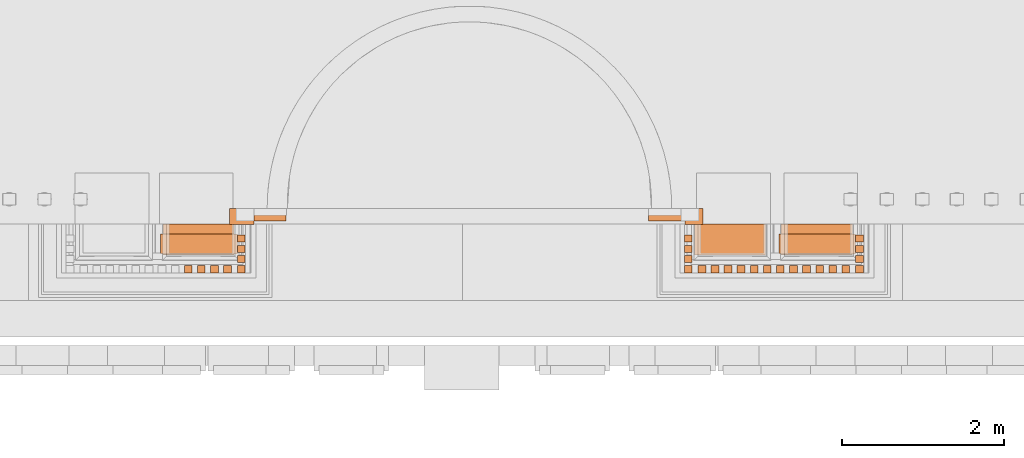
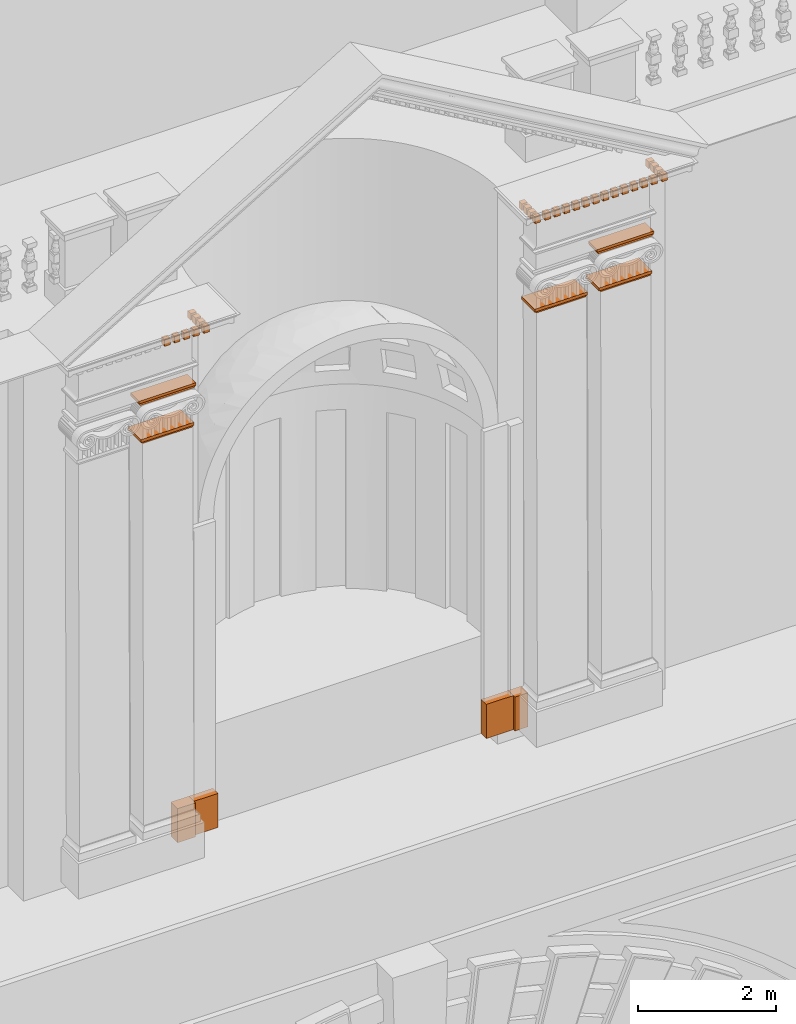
# One storey, part 16 of 44: 42 proxies.
"""IFC2X3 building model written with IfcOpenShell, lengths in metres."""

from ifc_helpers import new_model, entity, si_unit, converted_unit, derived_unit, direction, frame, frame_2d, origin, place, context, subcontext, project, spatial, polyline, circle_curve, parameter, trimmed, segment, composite_curve, rectangle, outline, extrude, material, element, save


model = new_model("IFC2X3")

# Units and contexts
model_context = context("Model", 3, precision=1e-05, world=origin(), true_north=direction((6.12303176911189e-17, 1.0)))
body_context = subcontext(model_context, "Body", "Model", "MODEL_VIEW")
ifc_project = project(units=[si_unit("LENGTHUNIT", "METRE"), si_unit("AREAUNIT", "SQUARE_METRE"), si_unit("VOLUMEUNIT", "CUBIC_METRE"), converted_unit("PLANEANGLEUNIT", "DEGREE", entity("IfcRatioMeasure", 0.0174532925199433), si_unit("PLANEANGLEUNIT", "RADIAN"), dimensions=[0, 0, 0, 0, 0, 0, 0]), si_unit("MASSUNIT", "GRAM", prefix="KILO"), derived_unit("MASSDENSITYUNIT", [(si_unit("MASSUNIT", "GRAM", prefix="KILO"), 1), (si_unit("LENGTHUNIT", "METRE"), -3)]), si_unit("TIMEUNIT", "SECOND"), si_unit("FREQUENCYUNIT", "HERTZ"), si_unit("THERMODYNAMICTEMPERATUREUNIT", "DEGREE_CELSIUS"), derived_unit("THERMALTRANSMITTANCEUNIT", [(si_unit("MASSUNIT", "GRAM", prefix="KILO"), 1), (si_unit("THERMODYNAMICTEMPERATUREUNIT", "KELVIN"), -1), (si_unit("TIMEUNIT", "SECOND"), -3)]), derived_unit("VOLUMETRICFLOWRATEUNIT", [(si_unit("LENGTHUNIT", "METRE"), 3), (si_unit("TIMEUNIT", "SECOND"), -1)]), si_unit("ELECTRICCURRENTUNIT", "AMPERE"), si_unit("ELECTRICVOLTAGEUNIT", "VOLT"), si_unit("POWERUNIT", "WATT"), si_unit("FORCEUNIT", "NEWTON", prefix="KILO"), si_unit("ILLUMINANCEUNIT", "LUX"), si_unit("LUMINOUSFLUXUNIT", "LUMEN"), si_unit("LUMINOUSINTENSITYUNIT", "CANDELA"), derived_unit("USERDEFINED", [(si_unit("MASSUNIT", "GRAM", prefix="KILO"), -1), (si_unit("LENGTHUNIT", "METRE"), -2), (si_unit("TIMEUNIT", "SECOND"), 3), (si_unit("LUMINOUSFLUXUNIT", "LUMEN"), 1)]), derived_unit("LINEARVELOCITYUNIT", [(si_unit("LENGTHUNIT", "METRE"), 1), (si_unit("TIMEUNIT", "SECOND"), -1)]), si_unit("PRESSUREUNIT", "PASCAL"), derived_unit("USERDEFINED", [(si_unit("LENGTHUNIT", "METRE"), -2), (si_unit("MASSUNIT", "GRAM", prefix="KILO"), 1), (si_unit("TIMEUNIT", "SECOND"), -2)])], contexts=[model_context])

# Site, building, storey
site_placement = place(None, origin())
site = spatial("IfcSite", under=ifc_project, at=site_placement, Name="Default", CompositionType="ELEMENT")
building_placement = place(site_placement, origin())
building = spatial("IfcBuilding", under=site, at=building_placement, CompositionType="ELEMENT")
storey_placement = place(building_placement, origin())
storey = spatial("IfcBuildingStorey", under=building, at=storey_placement, Name="Livello 1", CompositionType="ELEMENT", Elevation=0.0)

# Proxies
ifc_material_1 = material(Name="Travertino")
proxy_1_placement = place(storey_placement, frame((-2.65529902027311, 1.30166814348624, 13.3635840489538)))
element("IfcBuildingElementProxy", 1, at=proxy_1_placement, inside=storey, material=ifc_material_1, Name="Stratigrafia", context=body_context, shape_type="SweptSolid", body=[
    extrude(rectangle(XDim=0.600646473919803, YDim=0.151704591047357, at=frame_2d((0.0, 0.0), x_axis=(0.0, 1.0))), frame((0.0, 0.0758522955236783, 0.300323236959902), z_axis=(1.0, 0.0, 0.0), x_axis=(0.0, 1.0, 0.0)), (0.0, 0.0, 1.0), 0.400959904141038),
])
proxy_2_placement = place(storey_placement, frame((-2.95433911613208, 1.25736014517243, 13.3635840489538)))
element("IfcBuildingElementProxy", 2, at=proxy_2_placement, inside=storey, material=ifc_material_1, Name="Stratigrafia", context=body_context, shape_type="SweptSolid", body=[
    extrude(rectangle(XDim=0.600646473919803, YDim=0.196012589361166, at=frame_2d((0.0, 0.0), x_axis=(0.0, 1.0))), frame((0.0, 0.0980062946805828, 0.300323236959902), z_axis=(1.0, 0.0, 0.0), x_axis=(0.0, 1.0, 0.0)), (0.0, 0.0, 1.0), 0.299040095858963),
])
proxy_3_placement = place(storey_placement, frame((2.22478874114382, 1.30166814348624, 13.3635840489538)))
element("IfcBuildingElementProxy", 3, at=proxy_3_placement, inside=storey, material=ifc_material_1, Name="Stratigrafia", context=body_context, shape_type="SweptSolid", body=[
    extrude(rectangle(XDim=0.600646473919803, YDim=0.151704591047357, at=frame_2d((0.0, 0.0), x_axis=(0.0, 1.0))), frame((0.0, 0.0758522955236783, 0.300323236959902), z_axis=(1.0, 0.0, 0.0), x_axis=(0.0, 1.0, 0.0)), (0.0, 0.0, 1.0), 0.450122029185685),
])
proxy_4_placement = place(storey_placement, frame((2.67491077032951, 1.25736014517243, 13.3635840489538)))
element("IfcBuildingElementProxy", 4, at=proxy_4_placement, inside=storey, material=ifc_material_1, Name="Stratigrafia", context=body_context, shape_type="SweptSolid", body=[
    extrude(rectangle(XDim=0.600646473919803, YDim=0.196012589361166, at=frame_2d((0.0, 0.0), x_axis=(0.0, 1.0))), frame((0.0, 0.0980062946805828, 0.300323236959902), z_axis=(1.0, 0.0, 0.0), x_axis=(0.0, 1.0, 0.0)), (0.0, 0.0, 1.0), 0.219371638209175),
])
proxy_5_placement = place(storey_placement, frame((3.86017082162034, 0.883372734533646, 20.9111265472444)))
element("IfcBuildingElementProxy", 5, at=proxy_5_placement, inside=storey, Name="Stratigrafia", context=body_context, shape_type="SweptSolid", body=[
    extrude(outline(composite_curve([segment(polyline([(-0.123759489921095, 0.395360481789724), (0.101421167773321, -0.401671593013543)]), True, "CONTINUOUS"), segment(trimmed(circle_curve(frame_2d((0.0968904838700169, -0.441245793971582), x_axis=(0.85216090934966, 0.523279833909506)), 0.0398327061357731), [parameter(1.99993278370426e-11)], [parameter(51.9163679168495)], True, "PARAMETER"), False, "CONTINUOUS"), segment(polyline([(0.130834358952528, -0.420402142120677), (-0.108496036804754, 0.426713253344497)]), True, "CONTINUOUS"), segment(trimmed(circle_curve(frame_2d((-0.148328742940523, 0.426713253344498), x_axis=(1.0, 0.0)), 0.039832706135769), [parameter(308.083632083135)], [parameter(359.999999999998)], True, "PARAMETER"), False, "CONTINUOUS")], self_intersect=False)), frame((0.441732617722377, 0.0, 0.0132016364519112), z_axis=(0.0, -1.0, 0.0), x_axis=(0.271881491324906, 0.0, 0.962330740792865)), (0.0, 0.0, -1.0), 0.38),
])
proxy_6_placement = place(storey_placement, frame((3.86176609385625, 0.883372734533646, 20.9359345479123)))
element("IfcBuildingElementProxy", 6, at=proxy_6_placement, inside=storey, Name="Stratigrafia", context=body_context, shape_type="SweptSolid", body=[
    extrude(rectangle(XDim=0.052818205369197, YDim=0.38, at=frame_2d((1.2490009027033e-16, -2.16666962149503e-15), x_axis=(0.0, 1.0))), frame((0.0, 0.19, 0.0264091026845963), z_axis=(1.0, 0.0, 0.0), x_axis=(0.0, 1.0, 0.0)), (0.0, 0.0, 1.0), 0.880274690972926),
])
proxy_7_placement = place(storey_placement, frame((2.78829582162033, 0.883372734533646, 20.9111265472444)))
element("IfcBuildingElementProxy", 7, at=proxy_7_placement, inside=storey, Name="Stratigrafia", context=body_context, shape_type="SweptSolid", body=[
    extrude(outline(composite_curve([segment(polyline([(-0.123759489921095, 0.395360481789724), (0.101421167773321, -0.401671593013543)]), True, "CONTINUOUS"), segment(trimmed(circle_curve(frame_2d((0.0968904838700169, -0.441245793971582), x_axis=(0.85216090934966, 0.523279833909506)), 0.0398327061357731), [parameter(1.99993278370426e-11)], [parameter(51.9163679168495)], True, "PARAMETER"), False, "CONTINUOUS"), segment(polyline([(0.130834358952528, -0.420402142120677), (-0.108496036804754, 0.426713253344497)]), True, "CONTINUOUS"), segment(trimmed(circle_curve(frame_2d((-0.148328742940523, 0.426713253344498), x_axis=(1.0, 0.0)), 0.039832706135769), [parameter(308.083632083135)], [parameter(359.999999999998)], True, "PARAMETER"), False, "CONTINUOUS")], self_intersect=False)), frame((0.441732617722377, 0.0, 0.0132016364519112), z_axis=(0.0, -1.0, 0.0), x_axis=(0.271881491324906, 0.0, 0.962330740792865)), (0.0, 0.0, -1.0), 0.38),
])
proxy_8_placement = place(storey_placement, frame((2.78989109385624, 0.883372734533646, 20.9359345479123)))
element("IfcBuildingElementProxy", 8, at=proxy_8_placement, inside=storey, Name="Stratigrafia", context=body_context, shape_type="SweptSolid", body=[
    extrude(rectangle(XDim=0.052818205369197, YDim=0.38, at=frame_2d((1.2490009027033e-16, -2.16666962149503e-15), x_axis=(0.0, 1.0))), frame((0.0, 0.19, 0.0264091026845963), z_axis=(1.0, 0.0, 0.0), x_axis=(0.0, 1.0, 0.0)), (0.0, 0.0, 1.0), 0.880274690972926),
])
proxy_9_placement = place(storey_placement, frame((-3.77982917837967, 0.883372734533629, 20.9111265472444)))
element("IfcBuildingElementProxy", 9, at=proxy_9_placement, inside=storey, Name="Stratigrafia", context=body_context, shape_type="SweptSolid", body=[
    extrude(outline(composite_curve([segment(polyline([(-0.123759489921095, 0.395360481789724), (0.101421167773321, -0.401671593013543)]), True, "CONTINUOUS"), segment(trimmed(circle_curve(frame_2d((0.0968904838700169, -0.441245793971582), x_axis=(0.85216090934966, 0.523279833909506)), 0.0398327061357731), [parameter(1.99993278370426e-11)], [parameter(51.9163679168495)], True, "PARAMETER"), False, "CONTINUOUS"), segment(polyline([(0.130834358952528, -0.420402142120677), (-0.108496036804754, 0.426713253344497)]), True, "CONTINUOUS"), segment(trimmed(circle_curve(frame_2d((-0.148328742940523, 0.426713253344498), x_axis=(1.0, 0.0)), 0.039832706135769), [parameter(308.083632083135)], [parameter(359.999999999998)], True, "PARAMETER"), False, "CONTINUOUS")], self_intersect=False)), frame((0.441732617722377, 0.0, 0.0132016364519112), z_axis=(0.0, -1.0, 0.0), x_axis=(0.271881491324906, 0.0, 0.962330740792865)), (0.0, 0.0, -1.0), 0.38),
])
proxy_10_placement = place(storey_placement, frame((-3.77823390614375, 0.883372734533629, 20.9359345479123)))
element("IfcBuildingElementProxy", 10, at=proxy_10_placement, inside=storey, Name="Stratigrafia", context=body_context, shape_type="SweptSolid", body=[
    extrude(rectangle(XDim=0.052818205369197, YDim=0.38, at=frame_2d((1.2490009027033e-16, -2.16666962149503e-15), x_axis=(0.0, 1.0))), frame((0.0, 0.19, 0.0264091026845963), z_axis=(1.0, 0.0, 0.0), x_axis=(0.0, 1.0, 0.0)), (0.0, 0.0, 1.0), 0.880274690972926),
])
proxy_11_placement = place(storey_placement, frame((-3.80678404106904, 0.893372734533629, 21.5874052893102)))
element("IfcBuildingElementProxy", 11, at=proxy_11_placement, inside=storey, Name="Stratigrafia", context=body_context, shape_type="SweptSolid", body=[
    extrude(outline(polyline([(-0.444158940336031, -0.0175491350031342), (0.448323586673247, -0.0175491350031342), (0.472017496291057, 0.0175491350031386), (-0.476182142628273, 0.0175491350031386), (-0.444158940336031, -0.0175491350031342)])), frame((0.472017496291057, 0.0, 0.0175491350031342), z_axis=(0.0, 1.0, 0.0), x_axis=(-1.0, 0.0, 0.0)), (0.0, 0.0, 1.0), 0.25),
])
proxy_12_placement = place(storey_placement, frame((-3.80678404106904, 0.893372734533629, 21.6225035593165)))
element("IfcBuildingElementProxy", 12, at=proxy_12_placement, inside=storey, Name="Stratigrafia", context=body_context, shape_type="SweptSolid", body=[
    extrude(rectangle(XDim=0.0459747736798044, YDim=0.25, at=frame_2d((0.0, 0.0), x_axis=(0.0, 1.0))), frame((0.0, 0.125, 0.0229873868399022), z_axis=(1.0, 0.0, 0.0), x_axis=(0.0, 1.0, 0.0)), (0.0, 0.0, 1.0), 0.948246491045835),
])
ifc_material_2 = material(Name="Piperno")
for number, where in (
    (13, (-3.02687242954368, 0.661139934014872, 22.6747581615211)),
    (14, (-3.18865138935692, 0.661139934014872, 22.6747581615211)),
    (15, (-3.35043034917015, 0.661139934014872, 22.6747581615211)),
    (16, (-3.51220930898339, 0.661139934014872, 22.6747581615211)),
    (17, (-2.8569735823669, 0.661139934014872, 22.6747581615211)),
):
    element("IfcBuildingElementProxy", number, at=place(storey_placement, frame(where)), inside=storey, material=ifc_material_2, Name="Stratigrafia", context=body_context, shape_type="SweptSolid", body=[
        extrude(rectangle(XDim=0.117802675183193, YDim=0.0898173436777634, at=frame_2d((6.59194920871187e-17, 0.0), x_axis=(0.0, 1.0))), frame((0.0, 0.0449086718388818, 0.0589013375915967), z_axis=(1.0, 0.0, 0.0), x_axis=(0.0, 1.0, 0.0)), (0.0, 0.0, 1.0), 0.0951819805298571),
    ])
proxy_13_placement = place(storey_placement, frame((-2.8569735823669, 0.786139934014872, 22.6747581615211)))
element("IfcBuildingElementProxy", 18, at=proxy_13_placement, inside=storey, material=ifc_material_2, Name="Stratigrafia", context=body_context, shape_type="SweptSolid", body=[
    extrude(rectangle(XDim=0.117802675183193, YDim=0.0898173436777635, at=frame_2d((-6.59194920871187e-17, 0.0), x_axis=(0.0, 1.0))), frame((0.0, 0.0449086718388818, 0.0589013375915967), z_axis=(1.0, 0.0, 0.0), x_axis=(0.0, 1.0, 0.0)), (0.0, 0.0, 1.0), 0.0951819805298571),
])
proxy_14_placement = place(storey_placement, frame((-2.8569735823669, 0.911139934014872, 22.6747581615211)))
element("IfcBuildingElementProxy", 19, at=proxy_14_placement, inside=storey, material=ifc_material_2, Name="Stratigrafia", context=body_context, shape_type="SweptSolid", body=[
    extrude(rectangle(XDim=0.117802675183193, YDim=0.0898173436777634, at=frame_2d((-6.59194920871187e-17, 0.0), x_axis=(0.0, 1.0))), frame((0.0, 0.0449086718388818, 0.0589013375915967), z_axis=(1.0, 0.0, 0.0), x_axis=(0.0, 1.0, 0.0)), (0.0, 0.0, 1.0), 0.0951819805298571),
])
proxy_15_placement = place(storey_placement, frame((-2.8569735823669, 1.04113993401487, 22.6747581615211)))
element("IfcBuildingElementProxy", 20, at=proxy_15_placement, inside=storey, material=ifc_material_2, Name="Stratigrafia", context=body_context, shape_type="SweptSolid", body=[
    extrude(rectangle(XDim=0.117802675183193, YDim=0.0898173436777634, at=frame_2d((6.59194920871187e-17, 0.0), x_axis=(0.0, 1.0))), frame((0.0, 0.0449086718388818, 0.0589013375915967), z_axis=(1.0, 0.0, 0.0), x_axis=(0.0, 1.0, 0.0)), (0.0, 0.0, 1.0), 0.0951819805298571),
])
proxy_16_placement = place(storey_placement, frame((3.83321595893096, 0.893372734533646, 21.5874052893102)))
element("IfcBuildingElementProxy", 21, at=proxy_16_placement, inside=storey, Name="Stratigrafia", context=body_context, shape_type="SweptSolid", body=[
    extrude(outline(polyline([(-0.444158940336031, -0.0175491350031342), (0.448323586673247, -0.0175491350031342), (0.472017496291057, 0.0175491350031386), (-0.476182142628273, 0.0175491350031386), (-0.444158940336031, -0.0175491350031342)])), frame((0.472017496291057, 0.0, 0.0175491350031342), z_axis=(0.0, 1.0, 0.0), x_axis=(-1.0, 0.0, 0.0)), (0.0, 0.0, 1.0), 0.25),
])
proxy_17_placement = place(storey_placement, frame((3.83321595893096, 0.893372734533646, 21.6225035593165)))
element("IfcBuildingElementProxy", 22, at=proxy_17_placement, inside=storey, Name="Stratigrafia", context=body_context, shape_type="SweptSolid", body=[
    extrude(rectangle(XDim=0.0459747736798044, YDim=0.25, at=frame_2d((0.0, 0.0), x_axis=(0.0, 1.0))), frame((0.0, 0.125, 0.0229873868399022), z_axis=(1.0, 0.0, 0.0), x_axis=(0.0, 1.0, 0.0)), (0.0, 0.0, 1.0), 0.948246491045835),
])
for number, where in (
    (23, (4.61312757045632, 0.661139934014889, 22.6747581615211)),
    (24, (4.45134861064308, 0.661139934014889, 22.6747581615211)),
    (25, (4.28956965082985, 0.661139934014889, 22.6747581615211)),
    (26, (4.12779069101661, 0.661139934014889, 22.6747581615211)),
    (27, (3.96601173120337, 0.661139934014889, 22.6747581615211)),
    (28, (3.80423277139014, 0.661139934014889, 22.6747581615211)),
    (29, (3.6424538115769, 0.661139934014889, 22.6747581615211)),
    (30, (3.48067485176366, 0.661139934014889, 22.6747581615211)),
    (31, (3.31889589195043, 0.661139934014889, 22.6747581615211)),
    (32, (3.15711693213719, 0.661139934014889, 22.6747581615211)),
    (33, (2.99533797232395, 0.661139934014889, 22.6747581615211)),
    (34, (2.83533392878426, 0.661139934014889, 22.6747581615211)),
    (35, (2.66576995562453, 0.661139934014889, 22.6747581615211)),
    (36, (4.7830264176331, 0.661139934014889, 22.6747581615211)),
):
    element("IfcBuildingElementProxy", number, at=place(storey_placement, frame(where)), inside=storey, material=ifc_material_2, Name="Stratigrafia", context=body_context, shape_type="SweptSolid", body=[
        extrude(rectangle(XDim=0.117802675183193, YDim=0.0898173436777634, at=frame_2d((6.59194920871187e-17, 0.0), x_axis=(0.0, 1.0))), frame((0.0, 0.0449086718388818, 0.0589013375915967), z_axis=(1.0, 0.0, 0.0), x_axis=(0.0, 1.0, 0.0)), (0.0, 0.0, 1.0), 0.0951819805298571),
    ])
proxy_18_placement = place(storey_placement, frame((4.7830264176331, 0.786139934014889, 22.6747581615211)))
element("IfcBuildingElementProxy", 37, at=proxy_18_placement, inside=storey, material=ifc_material_2, Name="Stratigrafia", context=body_context, shape_type="SweptSolid", body=[
    extrude(rectangle(XDim=0.117802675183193, YDim=0.0898173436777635, at=frame_2d((-6.59194920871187e-17, 0.0), x_axis=(0.0, 1.0))), frame((0.0, 0.0449086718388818, 0.0589013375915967), z_axis=(1.0, 0.0, 0.0), x_axis=(0.0, 1.0, 0.0)), (0.0, 0.0, 1.0), 0.0951819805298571),
])
proxy_19_placement = place(storey_placement, frame((4.7830264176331, 0.911139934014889, 22.6747581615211)))
element("IfcBuildingElementProxy", 38, at=proxy_19_placement, inside=storey, material=ifc_material_2, Name="Stratigrafia", context=body_context, shape_type="SweptSolid", body=[
    extrude(rectangle(XDim=0.117802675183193, YDim=0.0898173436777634, at=frame_2d((-6.59194920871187e-17, 0.0), x_axis=(0.0, 1.0))), frame((0.0, 0.0449086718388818, 0.0589013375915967), z_axis=(1.0, 0.0, 0.0), x_axis=(0.0, 1.0, 0.0)), (0.0, 0.0, 1.0), 0.0951819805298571),
])
proxy_20_placement = place(storey_placement, frame((4.7830264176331, 1.04113993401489, 22.6747581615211)))
element("IfcBuildingElementProxy", 39, at=proxy_20_placement, inside=storey, material=ifc_material_2, Name="Stratigrafia", context=body_context, shape_type="SweptSolid", body=[
    extrude(rectangle(XDim=0.117802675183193, YDim=0.0898173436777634, at=frame_2d((6.59194920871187e-17, 0.0), x_axis=(0.0, 1.0))), frame((0.0, 0.0449086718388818, 0.0589013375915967), z_axis=(1.0, 0.0, 0.0), x_axis=(0.0, 1.0, 0.0)), (0.0, 0.0, 1.0), 0.0951819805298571),
])
proxy_21_placement = place(storey_placement, frame((2.66576995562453, 0.786139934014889, 22.6747581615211)))
element("IfcBuildingElementProxy", 40, at=proxy_21_placement, inside=storey, material=ifc_material_2, Name="Stratigrafia", context=body_context, shape_type="SweptSolid", body=[
    extrude(rectangle(XDim=0.117802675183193, YDim=0.0898173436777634, at=frame_2d((-6.59194920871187e-17, 0.0), x_axis=(0.0, 1.0))), frame((0.0, 0.0449086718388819, 0.0589013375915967), z_axis=(1.0, 0.0, 0.0), x_axis=(0.0, 1.0, 0.0)), (0.0, 0.0, 1.0), 0.0951819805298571),
])
proxy_22_placement = place(storey_placement, frame((2.66576995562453, 0.911139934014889, 22.6747581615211)))
element("IfcBuildingElementProxy", 41, at=proxy_22_placement, inside=storey, material=ifc_material_2, Name="Stratigrafia", context=body_context, shape_type="SweptSolid", body=[
    extrude(rectangle(XDim=0.117802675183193, YDim=0.0898173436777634, at=frame_2d((-6.59194920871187e-17, 0.0), x_axis=(0.0, 1.0))), frame((0.0, 0.0449086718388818, 0.0589013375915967), z_axis=(1.0, 0.0, 0.0), x_axis=(0.0, 1.0, 0.0)), (0.0, 0.0, 1.0), 0.0951819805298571),
])
proxy_23_placement = place(storey_placement, frame((2.66576995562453, 1.04113993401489, 22.6747581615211)))
element("IfcBuildingElementProxy", 42, at=proxy_23_placement, inside=storey, material=ifc_material_2, Name="Stratigrafia", context=body_context, shape_type="SweptSolid", body=[
    extrude(rectangle(XDim=0.117802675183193, YDim=0.0898173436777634, at=frame_2d((6.59194920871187e-17, 0.0), x_axis=(0.0, 1.0))), frame((0.0, 0.0449086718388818, 0.0589013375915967), z_axis=(1.0, 0.0, 0.0), x_axis=(0.0, 1.0, 0.0)), (0.0, 0.0, 1.0), 0.0951819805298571),
])

save(model, "model.ifc")
